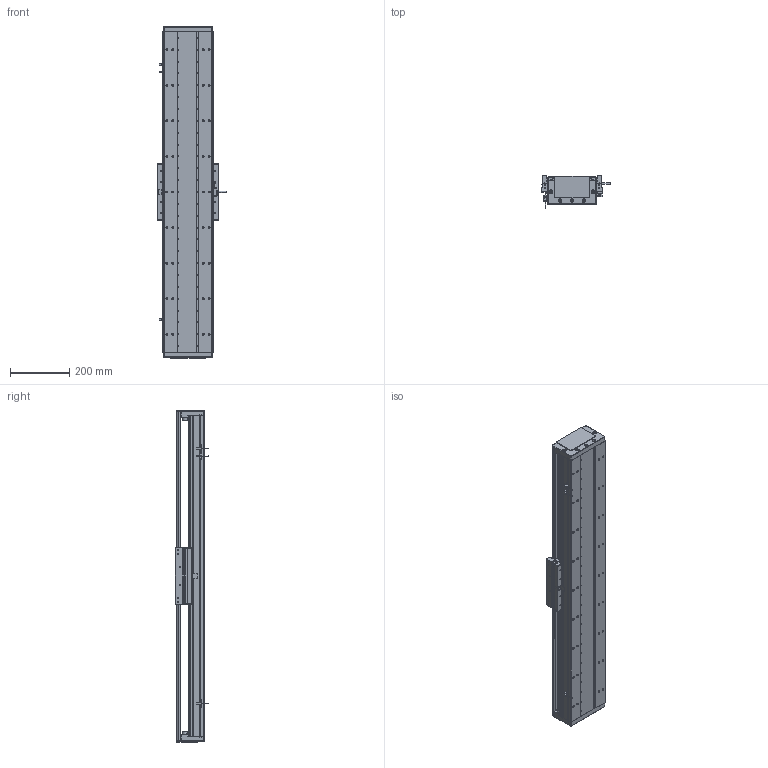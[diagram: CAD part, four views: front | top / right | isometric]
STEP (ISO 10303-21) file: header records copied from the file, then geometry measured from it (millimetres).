
FILE_DESCRIPTION (( 'STEP AP203' ), '1' );
FILE_NAME ('DA-C165-C2-T840-C010-0.2 直线电机.STEP', '2023-05-11T07:32:48', ( '微软用户' ), ( '微软中国' ), 'SwSTEP 2.0', 'SolidWorks 2019', '' );
FILE_SCHEMA (( 'CONFIG_CONTROL_DESIGN' ));
Length unit declared in the file: millimetre
Products named in the file (15): DA-C165-C2-T840-C010-0.2 眻盄萇儂; 复件 六角薄螺母 M3^DA-C165-C2-T-C010-0.2-N 直线电机_GB_FASTENER_NUT_STNAB M3-C; IU-CU165-L 菁釱絳寢; 复件 XD-U-02L 磁栅尺^DA-C165-C2-T-C010-0.2-N 直线电机_T; 复件 DA95-HXJ-00 缓冲橡胶^DA-C165-C2-T-C010-0.2-N 直线电机; 葩璃 PM-T45^DA-C165-C2-T-C010-0.2-N 眻盄萇儂; 复件 DA165-T-002-00 盖板^DA-C165-C2-T-C010-0.2-N 直线电机_0840-002-00; 葩璃 DA95-GT-T-00^IU-CU165-L 菁釱絳寢_T; IU-CU165-L-00 菁釱_L1080; 复件 CKM02-W075-C1C2-TP-3.0 一体电机-C2^DA-C165-C2-T-C010-0.2-N 直线电机; 复件 DMA-010-0.2 读数头^DA-C165-C2-T-C010-0.2-N 直线电机; 葩璃 CKM01-W075-TRL^DA-C165-C2-T-C010-0.2-N 眻盄萇儂; 复件 DA165-GYP-00 光电感应片^DA-C165-C2-T-C010-0.2-N 直线电机; 珨极趙賑雄怢啣wf-C2; 复件 DA165-DG-H-N-00 端盖^DA-C165-C2-T-C010-0.2-N 直线电机
Assembly tree (28 placements, depth 3):
  DA-C165-C2-T840-C010-0.2 眻盄萇儂
    IU-CU165-L 菁釱絳寢
      IU-CU165-L-00 菁釱_L1080
      葩璃 DA95-GT-T-00^IU-CU165-L 菁釱絳寢_T  x4
    复件 DA165-DG-H-N-00 端盖^DA-C165-C2-T-C010-0.2-N 直线电机  x2
    复件 DA95-HXJ-00 缓冲橡胶^DA-C165-C2-T-C010-0.2-N 直线电机  x4
    复件 DA165-T-002-00 盖板^DA-C165-C2-T-C010-0.2-N 直线电机_0840-002-00
    复件 XD-U-02L 磁栅尺^DA-C165-C2-T-C010-0.2-N 直线电机_T
    葩璃 PM-T45^DA-C165-C2-T-C010-0.2-N 眻盄萇儂  x3
    葩璃 CKM01-W075-TRL^DA-C165-C2-T-C010-0.2-N 眻盄萇儂
    复件 DA165-GYP-00 光电感应片^DA-C165-C2-T-C010-0.2-N 直线电机
    复件 DMA-010-0.2 读数头^DA-C165-C2-T-C010-0.2-N 直线电机
    复件 CKM02-W075-C1C2-TP-3.0 一体电机-C2^DA-C165-C2-T-C010-0.2-N 直线电机
    复件 六角薄螺母 M3^DA-C165-C2-T-C010-0.2-N 直线电机_GB_FASTENER_NUT_STNAB M3-C  x6
    珨极趙賑雄怢啣wf-C2
Bounding box: 233 x 111.45 x 1120 mm (x, y, z)
Volume: 8105666 mm3; surface area: 2220332.1 mm2
Topology: 66 solids, 66 shells, 3100 faces, 8520 edges, 5353 vertices
Faces by surface type: cylinder 1575, plane 1061, cone 406, torus 54, sphere 4
Entity records: 93713 total; most frequent: CARTESIAN_POINT 21888, DIRECTION 14808, ORIENTED_EDGE 14514, EDGE_CURVE 7257, AXIS2_PLACEMENT_3D 5565, VERTEX_POINT 4689, VECTOR 3678, LINE 3678
